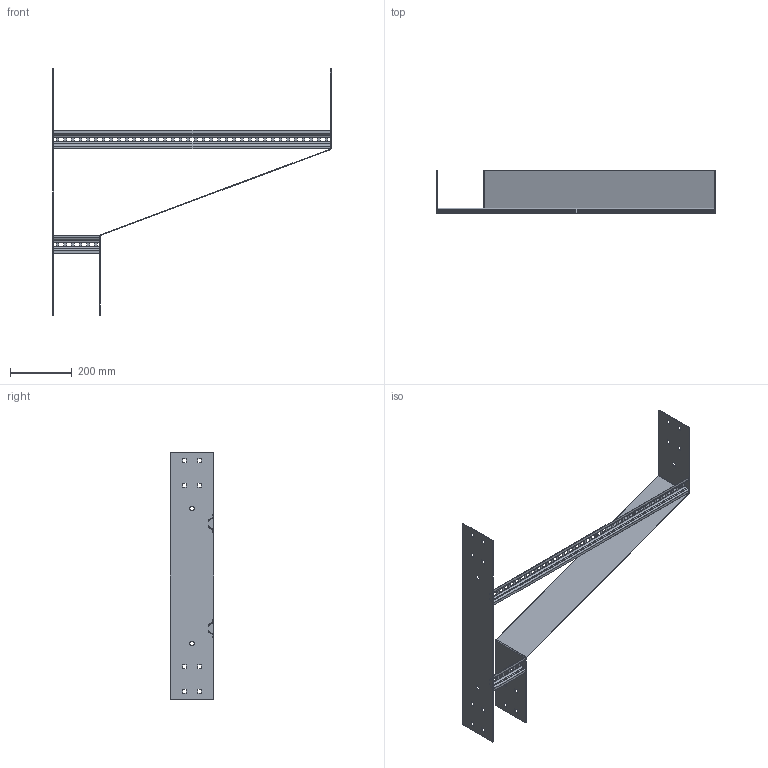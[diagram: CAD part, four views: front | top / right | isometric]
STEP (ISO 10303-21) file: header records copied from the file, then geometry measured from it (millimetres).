
FILE_DESCRIPTION (( 'STEP AP203' ), '1' );
FILE_NAME ('N20C LHR900150.STEP', '2024-08-28T22:26:11', ( '' ), ( '' ), 'SwSTEP 2.0', 'SolidWorks 2023', '' );
FILE_SCHEMA (( 'CONFIG_CONTROL_DESIGN' ));
Length unit declared in the file: millimetre
Products named in the file (5): Ladder Rung_Ladder Rung -  900mm; N20C Tee Back Plate_800; N20C LHR900150; N20C REDUCER_LHR150x900; Ladder Rung_Ladder Rung -  150mm
Assembly tree (4 placements, depth 2):
  N20C LHR900150
    N20C REDUCER_LHR150x900
    Ladder Rung_Ladder Rung -  150mm
    Ladder Rung_Ladder Rung -  900mm
    N20C Tee Back Plate_800
Bounding box: 904 x 140 x 800 mm (x, y, z)
Volume: 699727.8 mm3; surface area: 746874.4 mm2
Topology: 4 solids, 4 shells, 352 faces, 952 edges, 608 vertices
Faces by surface type: plane 324, cylinder 28
Entity records: 11535 total; most frequent: CARTESIAN_POINT 1919, ORIENTED_EDGE 1904, DIRECTION 1726, EDGE_CURVE 952, VECTOR 896, LINE 896, VERTEX_POINT 608, EDGE_LOOP 472
